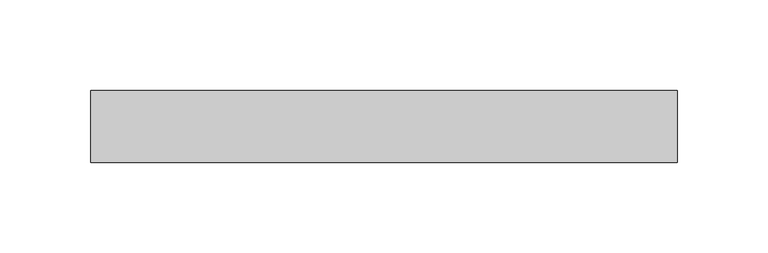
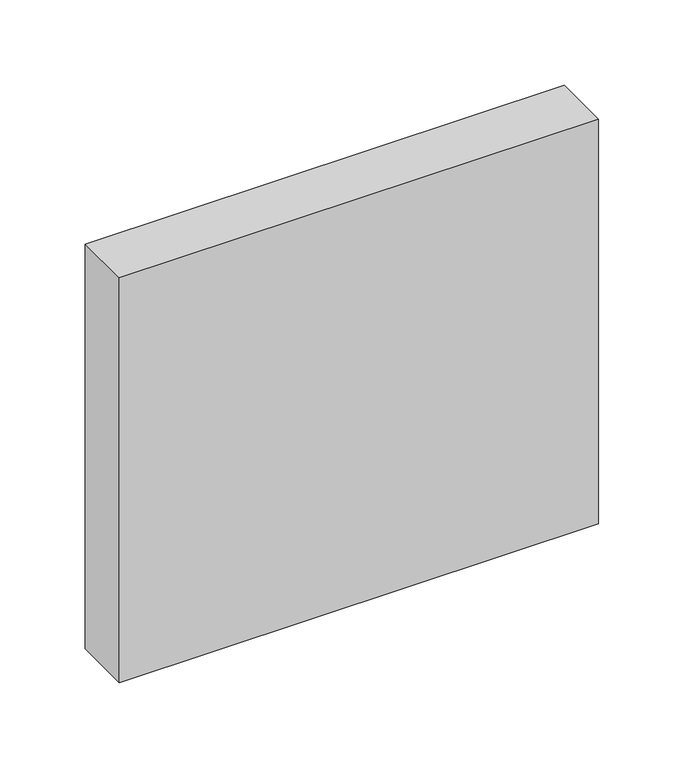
"""IFC4 building model written with IfcOpenShell, lengths in millimetres: plate geometry, Panneau système vide : Epaiss. 4cm."""

import ifcopenshell
import ifcopenshell.guid

model = None  # the IFC model being written
_history = None  # IfcOwnerHistory: only IFC2X3 demands one
_inside = {}  # id of a spatial element -> (the spatial element, [elements in it])
_under = {}  # id of a project, library or spatial element -> (it, [spatial elements below it])
_declared = {}  # id of a project -> (the project, [libraries it declares])
_typed = {}  # id of a type object -> (the type object, [elements of that type])
_made_of = {}  # id of a material, layer set ... -> (it, [elements and type objects made of it])


def new_model(schema):
    """Start an empty IFC model of exactly this schema.

    Asked for "IFC4X3", IfcOpenShell would pick the latest addendum, in which some entities
    have other attributes; the version numbers below select the first issue.
    IFC2X3 requires an IfcOwnerHistory on every rooted entity: one is made here for all.
    """
    global model, _history
    if schema == "IFC4X3":
        model = ifcopenshell.file(schema_version=(4, 3, 0, 0))
    else:
        model = ifcopenshell.file(schema=schema)
    _inside.clear()
    _under.clear()
    _declared.clear()
    _typed.clear()
    _made_of.clear()
    _history = None
    if model.schema == "IFC2X3":
        org = make("IfcOrganization", Name="unknown")
        user = make(
            "IfcPersonAndOrganization",
            ThePerson=make("IfcPerson", FamilyName="unknown"),
            TheOrganization=org,
        )
        app = make(
            "IfcApplication",
            ApplicationDeveloper=org,
            Version="unknown",
            ApplicationFullName="unknown",
            ApplicationIdentifier="unknown",
        )
        _history = make(
            "IfcOwnerHistory",
            OwningUser=user,
            OwningApplication=app,
            ChangeAction="ADDED",
            CreationDate=0,
        )
    return model


def make(cls, **values):
    """One entity of the class cls with the attributes given. An attribute that is None is left unset."""
    return model.create_entity(
        cls, **{name: value for name, value in values.items() if value is not None}
    )


def rooted(cls, **values):
    """An entity with a GlobalId (a new one), such as an element, a storey or a relation."""
    return make(cls, GlobalId=ifcopenshell.guid.new(), OwnerHistory=_history, **values)


def si_unit(unit_type, name, prefix=None):
    """IfcSIUnit, for example si_unit("LENGTHUNIT", "METRE", prefix="MILLI")."""
    return make("IfcSIUnit", UnitType=unit_type, Prefix=prefix, Name=name)


def assignment(units):
    """IfcUnitAssignment: the units of a project."""
    return None if units is None else make("IfcUnitAssignment", Units=units)


def point(xyz):
    """IfcCartesianPoint."""
    return None if xyz is None else make("IfcCartesianPoint", Coordinates=xyz)


def direction(xyz):
    """IfcDirection."""
    return None if xyz is None else make("IfcDirection", DirectionRatios=xyz)


def frame(location, z_axis=None, x_axis=None):
    """IfcAxis2Placement3D, a coordinate frame: its origin and axes. An axis left out is left unset."""
    return make(
        "IfcAxis2Placement3D",
        Location=point(location),
        Axis=direction(z_axis),
        RefDirection=direction(x_axis),
    )


def origin():
    """The frame at (0, 0, 0) with its axes left unset."""
    return frame((0.0, 0.0, 0.0))


def origin_with_axes():
    """The frame at (0, 0, 0) with the z axis (0, 0, 1) and the x axis (1, 0, 0) written out."""
    return frame((0.0, 0.0, 0.0), z_axis=(0.0, 0.0, 1.0), x_axis=(1.0, 0.0, 0.0))


def place(relative_to, where):
    """IfcLocalPlacement: puts the frame where relative to a parent placement (None: the world)."""
    return make(
        "IfcLocalPlacement", PlacementRelTo=relative_to, RelativePlacement=where
    )


def context(
    kind, dimensions, precision=None, world=None, true_north=None, identifier=None
):
    """IfcGeometricRepresentationContext, for example the 3D "Model" context."""
    return make(
        "IfcGeometricRepresentationContext",
        ContextIdentifier=identifier,
        ContextType=kind,
        CoordinateSpaceDimension=dimensions,
        Precision=precision,
        WorldCoordinateSystem=world,
        TrueNorth=true_north,
    )


def project(units=None, contexts=None):
    """IfcProject with its units and contexts."""
    return rooted(
        "IfcProject",
        Name="project",
        RepresentationContexts=contexts,
        UnitsInContext=assignment(units),
    )


def spatial(cls, under=None, at=None, **own):
    """A site, building, storey or space (cls), placed at a placement, below another one or the project."""
    s = rooted(cls, ObjectPlacement=at, **own)
    if under is not None:
        _under.setdefault(under.id(), (under, []))[1].append(s)
    return s


def polyline(points):
    """IfcPolyline through the points."""
    return make("IfcPolyline", Points=[point(p) for p in points])


def outline(outer, holes=None, kind="AREA"):
    """IfcArbitraryClosedProfileDef: a profile drawn as a closed curve; with holes, ...WithVoids."""
    if holes is None:
        return make("IfcArbitraryClosedProfileDef", ProfileType=kind, OuterCurve=outer)
    return make(
        "IfcArbitraryProfileDefWithVoids",
        ProfileType=kind,
        OuterCurve=outer,
        InnerCurves=holes,
    )


def extrude(swept, where, along, depth):
    """IfcExtrudedAreaSolid: the profile swept, set in the frame where, extruded along a direction by depth."""
    return make(
        "IfcExtrudedAreaSolid",
        SweptArea=swept,
        Position=where,
        ExtrudedDirection=direction(along),
        Depth=depth,
    )


def shape(context_of_items, identifier, shape_type, items):
    """IfcShapeRepresentation: the items that make up one representation, for example the "Body"."""
    return make(
        "IfcShapeRepresentation",
        ContextOfItems=context_of_items,
        RepresentationIdentifier=identifier,
        RepresentationType=shape_type,
        Items=items,
    )


def source(mapping_origin, context_of_items, identifier, shape_type, items):
    """IfcRepresentationMap: a shape defined once, which mapped items show again and again."""
    return make(
        "IfcRepresentationMap",
        MappingOrigin=mapping_origin,
        MappedRepresentation=shape(context_of_items, identifier, shape_type, items),
    )


def transform(
    local_origin,
    x_axis=None,
    y_axis=None,
    z_axis=None,
    scale=None,
    scale2=None,
    scale3=None,
    uniform=True,
):
    """IfcCartesianTransformationOperator3D, or its non-uniform kind. x_axis, y_axis, z_axis: its Axis1, 2, 3."""
    if uniform:
        return make(
            "IfcCartesianTransformationOperator3D",
            Axis1=direction(x_axis),
            Axis2=direction(y_axis),
            LocalOrigin=point(local_origin),
            Scale=scale,
            Axis3=direction(z_axis),
        )
    return make(
        "IfcCartesianTransformationOperator3DnonUniform",
        Axis1=direction(x_axis),
        Axis2=direction(y_axis),
        LocalOrigin=point(local_origin),
        Scale=scale,
        Axis3=direction(z_axis),
        Scale2=scale2,
        Scale3=scale3,
    )


def mapped(mapping_source, mapping_target):
    """IfcMappedItem: shows the shape of a source again, moved by a transform."""
    return make(
        "IfcMappedItem", MappingSource=mapping_source, MappingTarget=mapping_target
    )


def made_of(thing, what):
    """Note that an element or type object is made of a material, layer set ...; save() writes the relation."""
    if what is not None:
        _made_of.setdefault(what.id(), (what, []))[1].append(thing)
    return thing


def element(
    cls,
    number,
    at=None,
    inside=None,
    cuts=None,
    type_object=None,
    material=None,
    context=None,
    identifier="Body",
    shape_type=None,
    held_by="IfcProductDefinitionShape",
    body=None,
    shapes=None,
    **own,
):
    """One element of the class cls, such as IfcWall. Its Tag is "e" and its number.

    at: its placement. inside: the storey or other place that contains it. cuts: it is an
    opening in that element (IfcRelVoidsElement). A single representation is given by context,
    identifier, shape_type and body (its items); several are given by shapes. held_by: the class
    of the entity that holds the representations. save() writes the other relations.
    """
    e = rooted(cls, Tag="e%d" % number, ObjectPlacement=at, **own)
    if body is not None:
        shapes = [shape(context, identifier, shape_type, body)]
    if shapes is not None:
        e.Representation = make(held_by, Representations=shapes)
    if inside is not None:
        _inside.setdefault(inside.id(), (inside, []))[1].append(e)
    if cuts is not None:
        rooted(
            "IfcRelVoidsElement", RelatingBuildingElement=cuts, RelatedOpeningElement=e
        )
    if type_object is not None:
        _typed.setdefault(type_object.id(), (type_object, []))[1].append(e)
    return made_of(e, material)


def aggregate(whole, parts):
    """IfcRelAggregates: a whole, such as a stair, and the parts it consists of."""
    return rooted("IfcRelAggregates", RelatingObject=whole, RelatedObjects=parts)


def save(model, path):
    """Write the relations noted so far, then the file.

    IfcRelAggregates (storeys below a building ...), IfcRelContainedInSpatialStructure (elements
    in a storey), IfcRelDefinesByType, IfcRelAssociatesMaterial and IfcRelDeclares: one each for
    every whole, place, type object, material and project.
    """
    for whole, parts in _under.values():
        aggregate(whole, parts)
    for where, things in _inside.values():
        rooted(
            "IfcRelContainedInSpatialStructure",
            RelatedElements=things,
            RelatingStructure=where,
        )
    for kind, things in _typed.values():
        rooted("IfcRelDefinesByType", RelatedObjects=things, RelatingType=kind)
    for what, things in _made_of.values():
        rooted("IfcRelAssociatesMaterial", RelatedObjects=things, RelatingMaterial=what)
    for by, libraries in _declared.values():
        rooted("IfcRelDeclares", RelatingContext=by, RelatedDefinitions=libraries)
    model.write(path)


def plate_e3df324b(model_context):
    return source(origin(), model_context, "Body", "SweptSolid", [
        extrude(outline(polyline([(162.15, -20.0), (-162.15, -20.0), (-162.15, 20.0), (162.15, 20.0), (162.15, -20.0)])), origin_with_axes(), (0.0, 0.0, 1.0), 289.482842),
    ])


if __name__ == "__main__":
    model = new_model("IFC4")
    model_context = context("Model", 3, world=origin())
    ifc_project = project(units=[si_unit("LENGTHUNIT", "METRE", prefix="MILLI")], contexts=[model_context])
    site = spatial("IfcSite", under=ifc_project)
    building = spatial("IfcBuilding", under=site)
    placement = place(None, origin())
    plate_shape = plate_e3df324b(model_context)
    element("IfcPlate", 1, ObjectType="Panneau système vide : Epaiss. 4cm", at=placement, inside=building, context=model_context, shape_type="MappedRepresentation", body=[
        mapped(plate_shape, transform((0.0, 0.0, 0.0), x_axis=(1.0, 0.0, 0.0), y_axis=(0.0, 1.0, 0.0), z_axis=(0.0, 0.0, 1.0))),
    ])
    save(model, "model.ifc")
